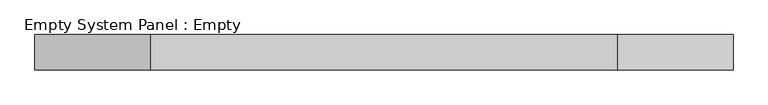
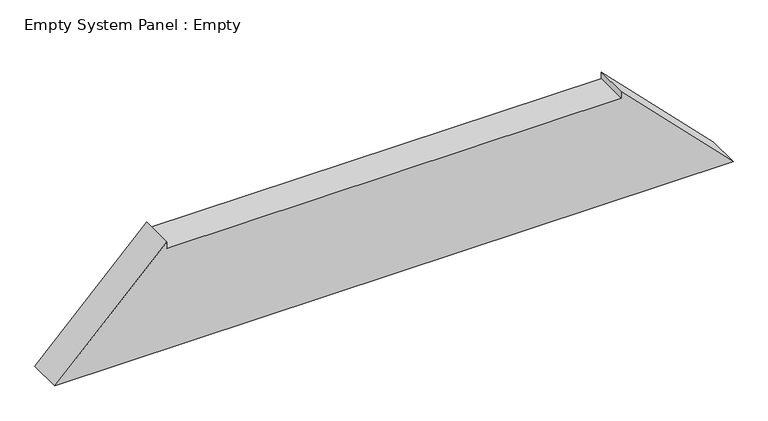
"""IFC4 building model written with IfcOpenShell, lengths in millimetres: plate geometry, Empty System Panel : Empty."""

from ifc_helpers import new_model, si_unit, frame, origin, place, context, project, spatial, polyline, outline, extrude, source, transform, mapped, element, save


def empty_system_panel_empty_834a7346(model_context):
    return source(origin(), model_context, "Body", "SweptSolid", [
        extrude(outline(polyline([(0.0, -987.7144361), (0.0, 987.7144361), (330.0, 661.3654396), (310.0, 661.3654396), (310.0, -661.3654396), (330.0, -661.3654396), (0.0, -987.7144361)])), frame((0.0, -50.0, 0.0), z_axis=(0.0, 1.0, 0.0), x_axis=(0.0, 0.0, 1.0)), (0.0, 0.0, 1.0), 100.0),
    ])


if __name__ == "__main__":
    model = new_model("IFC4")
    model_context = context("Model", 3, world=origin())
    ifc_project = project(units=[si_unit("LENGTHUNIT", "METRE", prefix="MILLI")], contexts=[model_context])
    site = spatial("IfcSite", under=ifc_project)
    building = spatial("IfcBuilding", under=site)
    placement = place(None, origin())
    empty_system_panel_empty_shape = empty_system_panel_empty_834a7346(model_context)
    element("IfcPlate", 1, ObjectType="Empty System Panel : Empty", at=placement, inside=building, context=model_context, shape_type="MappedRepresentation", body=[
        mapped(empty_system_panel_empty_shape, transform((0.0, 0.0, 0.0), x_axis=(1.0, 0.0, 0.0), y_axis=(0.0, 1.0, 0.0), z_axis=(0.0, 0.0, 1.0))),
    ])
    save(model, "model.ifc")
